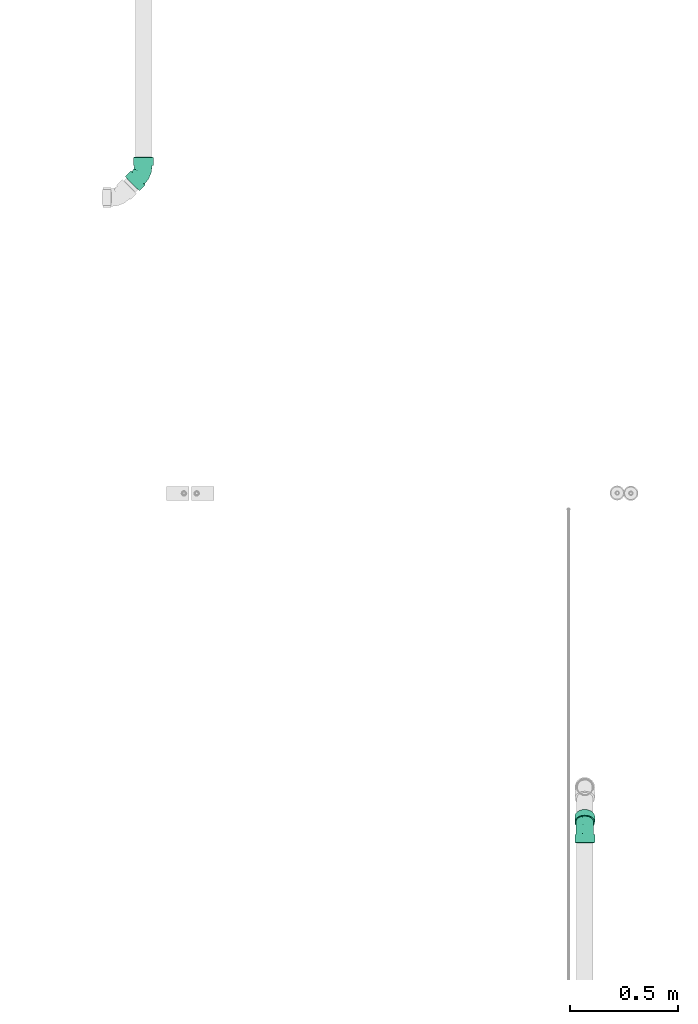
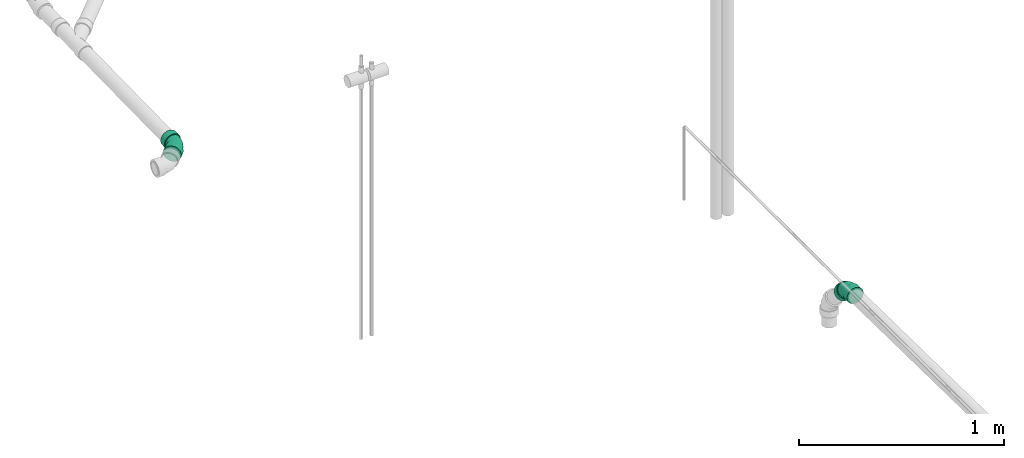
# One storey, part 12 of 18: 2 flow fittings.
"""IFC2X3 building model written with IfcOpenShell, lengths in millimetres."""

from ifc_helpers import new_model, entity, si_unit, converted_unit, derived_unit, direction, frame, origin_with_axes, place, context, subcontext, project, spatial, open_shell, surface_model, source, transform, mapped, type_object, element, save


model = new_model("IFC2X3")

# Units and contexts
model_context = context("Model", 3, precision=0.01, world=frame((0.0, 4.29681676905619e-09, 0.0)), true_north=direction((4.01073788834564e-13, 1.0)))
plan_context = context("Plan", 3, precision=0.01, world=frame((0.0, 4.29681676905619e-09, 0.0)), true_north=direction((4.01073788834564e-13, 1.0)))
body_context = subcontext(model_context, "Body", "Model", "MODEL_VIEW")
ifc_project = project(units=[converted_unit("PLANEANGLEUNIT", "DEGREE", entity("IfcPositiveLengthMeasure", 0.0174532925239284), si_unit("PLANEANGLEUNIT", "RADIAN"), dimensions=[0, 0, 0, 0, 0, 0, 0]), si_unit("AREAUNIT", "SQUARE_METRE"), si_unit("LENGTHUNIT", "METRE", prefix="MILLI"), si_unit("MASSUNIT", "GRAM", prefix="KILO"), si_unit("POWERUNIT", "WATT"), si_unit("PRESSUREUNIT", "PASCAL", prefix="KILO"), si_unit("FORCEUNIT", "NEWTON", prefix="KILO"), si_unit("ELECTRICVOLTAGEUNIT", "VOLT"), si_unit("ELECTRICCURRENTUNIT", "AMPERE"), si_unit("THERMODYNAMICTEMPERATUREUNIT", "DEGREE_CELSIUS"), si_unit("TIMEUNIT", "SECOND"), si_unit("VOLUMEUNIT", "CUBIC_METRE"), derived_unit("LINEARVELOCITYUNIT", [(si_unit("LENGTHUNIT", "METRE"), 1), (si_unit("TIMEUNIT", "SECOND"), -1)]), derived_unit("VOLUMETRICFLOWRATEUNIT", [(si_unit("VOLUMEUNIT", "CUBIC_METRE"), 1), (si_unit("TIMEUNIT", "SECOND"), -1)]), derived_unit("THERMALTRANSMITTANCEUNIT", [(si_unit("POWERUNIT", "WATT"), 1), (si_unit("THERMODYNAMICTEMPERATUREUNIT", "KELVIN"), -1), (si_unit("AREAUNIT", "SQUARE_METRE"), -1)]), derived_unit("SOUNDPRESSUREUNIT", [(si_unit("PRESSUREUNIT", "PASCAL"), 1)])], contexts=[model_context, plan_context])

# Site, building, storey
site_placement = place(None, frame((0.0, -4.29681676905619e-09, 0.0), z_axis=(0.0, 0.0, 1.0), x_axis=(1.0, 0.0, 0.0)))
site = spatial("IfcSite", under=ifc_project, at=site_placement, Name="ENGM", CompositionType="ELEMENT")
building_placement = place(site_placement, frame((0.0, 4.29681676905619e-09, 0.0), z_axis=(0.0, 0.0, 1.0), x_axis=(1.0, 0.0, 0.0)))
building = spatial("IfcBuilding", under=site, at=building_placement, Name="TI", CompositionType="ELEMENT")
storey_placement = place(building_placement, frame((0.0, 0.0, 204000.0), z_axis=(0.0, 0.0, 1.0), x_axis=(1.0, 0.0, 0.0)))
storey = spatial("IfcBuildingStorey", under=building, at=storey_placement, Name="Nivå D", CompositionType="ELEMENT", Elevation=204000.0)

# Flow fittings
pipe_fitting_type = type_object("IfcPipeFittingType", Name="magi_sewer_bend_001", PredefinedType="BEND")
shared_shape_1 = source(origin_with_axes(), body_context, "Body", "SurfaceModel", [
    surface_model("IfcShellBasedSurfaceModel", [(-71.66706, 11.97038, -44.67407), (-71.66706, 32.70369, -32.70369), (-71.66706, 23.125, -40.05367), (-71.66706, 0.0, -46.25), (-71.66706, 44.67407, -11.97038), (-71.66706, 40.05367, -23.125), (-71.66706, 44.67407, 11.97038), (-71.66706, 46.25, 0.0), (-71.66706, 40.05367, 23.125), (-71.66706, 23.125, 40.05367), (-71.66706, 32.70369, 32.70369), (-71.66706, 11.97038, 44.67407), (-34.16706, 0.0, 46.25), (-34.16706, -11.97038, 44.67407), (-34.16706, -23.125, 40.05367), (-34.16706, -32.70369, 32.70369), (-34.16706, -40.05367, 23.125), (-34.16706, -44.67407, 11.97038), (-34.16706, 40.05367, 23.125), (-34.16706, -44.67407, -11.97038), (-34.16706, 23.125, 40.05367), (-34.16706, 32.70369, 32.70369), (-34.16706, 11.97038, 44.67407), (-34.16706, 44.67407, 11.97038), (-34.16706, 44.67407, -11.97038), (-34.16706, 46.25, 0.0), (-34.16706, -32.70369, -32.70369), (-34.16706, -40.05367, -23.125), (-34.16706, -23.125, -40.05367), (-34.16706, -11.97038, -44.67407), (-34.16706, 11.97038, -44.67407), (-34.16706, 32.70369, -32.70369), (-34.16706, 40.05367, -23.125), (-34.16706, 23.125, -40.05367), (-34.16706, 0.0, -46.25), (-34.16706, -46.25, 0.0), (-71.66706, -11.97038, 44.67407), (-71.66706, 0.0, 46.25), (19.0964, 82.2634, -11.97038), (17.98217, 83.37788, 0.0), (19.0964, 82.2634, 11.97038), (47.28487, 1.02931, 32.70369), (40.5125, 7.80325, 40.05367), (32.6259, 15.69166, 44.67407), (32.6259, 15.69166, -44.67407), (15.69917, 32.62229, -44.67407), (24.16254, 24.15697, -46.25), (40.5125, 7.80325, -40.05367), (15.69917, 32.62229, 44.67407), (42.21873, 59.13574, -44.67407), (-4.15643, 52.48246, -23.125), (-7.42316, 55.74995, -11.97038), (50.68209, 50.67043, -46.25), (22.36313, 78.99591, -23.125), (-8.53739, 56.86443, 0.0), (-7.42316, 55.74995, 11.97038), (42.21873, 59.13574, 44.67407), (24.16254, 24.15697, 46.25), (-4.15643, 52.48246, 23.125), (22.36313, 78.99591, 23.125), (50.68209, 50.67043, 46.25), (59.14546, 42.20511, 44.67407), (59.14546, 42.20511, -44.67407), (-34.16706, 10.67629, -39.84444), (-34.16706, 0.0, -41.25), (-34.16706, 35.72355, -20.625), (-34.16706, 20.625, -35.72355), (-34.16706, -10.67629, -39.84444), (-34.16706, 29.16816, -29.16816), (-34.16706, 39.84444, -10.67629), (-34.16706, -29.16816, -29.16816), (-34.16706, -35.72355, -20.625), (-34.16706, -20.625, -35.72355), (-34.16706, -39.84444, -10.67629), (-34.16706, -41.25, 0.0), (-34.16706, -39.84444, 10.67629), (-34.16706, 41.25, 0.0), (-34.16706, 35.72355, 20.625), (-34.16706, 39.84444, 10.67629), (-34.16706, 10.67629, 39.84444), (-34.16706, 20.625, 35.72355), (-34.16706, 29.16816, 29.16816), (-34.16706, -35.72355, 20.625), (-34.16706, -29.16816, 29.16816), (-34.16706, -10.67629, 39.84444), (-34.16706, -20.625, 35.72355), (-34.16706, 0.0, 41.25), (-1.09492, 49.42024, -20.625), (16.61413, 31.70712, -39.84444), (9.58014, 38.74273, -35.72355), (3.53991, 44.78435, -29.16816), (38.74494, 9.57122, -35.72355), (31.71094, 16.60683, -39.84444), (24.16254, 24.15697, -41.25), (52.33357, -4.02054, -10.67629), (52.33357, -4.02054, 10.67629), (53.32733, -5.01454, 0.0), (44.78516, 3.5296, 29.16816), (49.41999, -1.1063, 20.625), (31.71094, 16.60683, 39.84444), (38.74494, 9.57122, 35.72355), (-5.00226, 53.32849, 0.0), (-4.00849, 52.33449, -10.67629), (10.50531, -25.3662, 22.98801), (-9.12258, -23.31381, 31.83032), (-13.31501, -31.5484, 24.15362), (31.72174, -12.89661, 24.15362), (-16.34242, -15.1263, 37.70052), (4.23545, -10.22694, 37.18093), (16.61413, 31.70712, 39.84444), (1.22635, 24.79685, 38.50086), (7.45593, 19.52294, 40.64982), (-12.3073, -3.97177, 40.70356), (-3.92229, 9.47079, 41.105), (-20.66516, 5.7159, 40.99964), (-11.71485, 28.28675, 33.67645), (-18.18583, 34.59425, 26.03138), (9.58014, 38.74273, 35.72355), (3.53991, 44.78435, 29.16816), (15.91576, -27.00124, 16.25786), (-7.39337, -35.68797, 14.32543), (12.80601, -30.92148, 8.96692), (33.09337, -20.6528, 7.04424), (37.00989, -17.53286, 0.0), (-16.52081, 44.19877, 8.66693), (30.4608, -20.01081, 14.32543), (24.16254, 24.15697, 41.25), (11.51172, 5.89279, 40.70356), (22.93484, -10.03736, 31.83032), (-13.77678, -38.56597, 0.0), (-2.14279, -37.03455, 0.0), (12.77847, -30.85497, 0.0), (27.69972, -24.67539, 0.0), (-4.00849, 52.33449, 10.67629), (11.51172, 5.89279, -40.70356), (-11.59821, 37.32248, -26.03138), (44.78516, 3.5296, -29.16816), (22.93484, -10.03736, -31.83032), (49.41999, -1.1063, -20.625), (30.4608, -20.01081, -14.32542), (-0.93093, 23.34179, -38.56285), (-18.39926, 16.66898, -38.50086), (-11.71485, 28.28675, -33.67645), (-7.39337, -35.68797, -14.32542), (-13.31501, -31.5484, -24.15362), (-16.34242, -15.1263, -37.70052), (22.25184, 0.85736, -37.70052), (-19.56634, 42.93748, -8.66693), (33.09337, -20.6528, -7.04424), (10.57287, 18.65301, -40.99964), (7.83513, -30.34781, -16.25786), (12.80601, -30.92148, -8.96692), (31.72174, -12.89661, -24.15362), (4.23545, -10.22694, -37.18093), (-3.92229, 9.47079, -41.105), (10.50531, -25.3662, -22.98801), (6.92293, -16.71615, -32.89587), (-71.66707, -44.67407, -11.97038), (-71.66707, -11.97038, -44.67407), (-71.66707, -23.125, -40.05367), (-71.66707, -32.70369, -32.70369), (-71.66707, -40.05367, -23.125), (-71.66707, -44.67407, 11.97038), (-71.66707, -40.05367, 23.125), (-71.66707, -32.70369, 32.70369), (-71.66707, -46.25, 0.0), (-8.80119, -38.00326, 7.04424), (-1.09492, 49.42026, 20.625), (-16.99004, 41.02424, 16.94694), (-15.8449, 17.16523, 38.56285), (-12.30731, -3.97177, -40.70356), (-19.07597, 8.53486, -40.64982), (-71.66707, -23.125, 40.05367), (67.03205, 34.31671, -40.05367), (27.55975, 73.79809, -32.70369), (34.33213, 67.02416, -40.05367), (67.03205, 34.31671, 40.05367), (73.80443, 27.54278, 32.70369), (79.00106, 22.34495, 23.125), (82.2678, 19.07746, -11.97038), (82.2678, 19.07746, 11.97038), (83.38202, 17.96298, 0.0), (79.00106, 22.34495, -23.125), (73.80443, 27.54278, -32.70369), (55.74824, -7.436, -11.97038), (56.86246, -8.55048, 0.0), (55.74824, -7.436, 11.97038), (52.4815, -4.16851, 23.125), (47.28487, 1.02931, -32.70369), (52.4815, -4.16851, -23.125), (7.81258, 40.5107, 40.05367), (7.81258, 40.5107, -40.05367), (34.33213, 67.02416, 40.05367), (22.25185, 0.85737, 37.70052), (-18.38357, 44.38906, 0.0), (6.92294, -16.71615, 32.89586), (-8.8012, -38.00326, -7.04424), (-9.12259, -23.31381, -31.83032), (27.55975, 73.79809, 32.70369), (1.0402, 47.28464, 32.70369), (1.0402, 47.28464, -32.70369), (-16.99004, 41.02424, -16.94694)], [open_shell([[[0, 1, 2]], [[1, 0, 3]], [[1, 4, 5]], [[4, 1, 3]], [[4, 6, 7]], [[8, 6, 4]], [[8, 9, 10]], [[9, 8, 11]], [[12, 13, 14]], [[12, 14, 15]], [[15, 16, 17]], [[12, 15, 18]], [[15, 19, 18]], [[20, 18, 21]], [[18, 20, 22]], [[23, 24, 25]], [[18, 22, 12]], [[23, 18, 24]], [[15, 17, 19]], [[24, 18, 19]], [[26, 19, 27]], [[28, 29, 19]], [[28, 19, 26]], [[30, 19, 29]], [[24, 31, 32]], [[24, 19, 31]], [[31, 30, 33]], [[19, 30, 31]], [[29, 34, 30]], [[19, 17, 35]], [[24, 4, 25]], [[32, 5, 24]], [[2, 31, 33]], [[32, 31, 1]], [[0, 33, 30]], [[24, 5, 4]], [[4, 7, 25]], [[0, 2, 33]], [[1, 31, 2]], [[1, 5, 32]], [[3, 0, 30]], [[30, 34, 3]], [[36, 14, 13]], [[37, 36, 13]], [[13, 12, 37]], [[21, 9, 20]], [[23, 8, 18]], [[21, 18, 10]], [[6, 23, 25]], [[20, 11, 22]], [[20, 9, 11]], [[11, 37, 22]], [[21, 10, 9]], [[18, 8, 10]], [[6, 8, 23]], [[25, 7, 6]], [[22, 37, 12]], [[38, 39, 40]], [[41, 42, 43]], [[44, 45, 46]], [[45, 47, 48]], [[45, 49, 46]], [[38, 50, 51]], [[49, 52, 46]], [[38, 53, 50]], [[39, 38, 51]], [[51, 54, 39]], [[54, 55, 40]], [[56, 48, 57]], [[40, 58, 59]], [[58, 40, 55]], [[57, 60, 56]], [[54, 40, 39]], [[43, 61, 57]], [[61, 60, 57]], [[62, 44, 46]], [[46, 52, 62]], [[63, 64, 65]], [[66, 63, 65]], [[67, 65, 64]], [[68, 66, 65]], [[69, 65, 67]], [[70, 71, 72]], [[67, 72, 71]], [[71, 73, 67]], [[73, 69, 67]], [[74, 75, 73]], [[76, 69, 73]], [[77, 78, 76]], [[75, 77, 73]], [[79, 80, 81]], [[75, 81, 77]], [[81, 75, 79]], [[82, 83, 75]], [[84, 75, 83]], [[85, 84, 83]], [[84, 79, 75]], [[84, 86, 79]], [[76, 73, 77]], [[87, 88, 89]], [[87, 89, 90]], [[91, 92, 93]], [[94, 95, 96]], [[95, 97, 98]], [[97, 99, 100]], [[101, 95, 102]], [[103, 104, 105]], [[85, 83, 104]], [[98, 97, 106]], [[107, 104, 108]], [[105, 104, 83]], [[109, 110, 111]], [[84, 85, 107]], [[112, 113, 114]], [[86, 84, 112]], [[81, 115, 116]], [[114, 79, 86]], [[117, 118, 115]], [[119, 120, 121]], [[115, 81, 80]], [[83, 82, 105]], [[95, 122, 123]], [[124, 76, 78]], [[125, 119, 121]], [[126, 111, 127]], [[97, 100, 128]], [[127, 99, 126]], [[103, 105, 120]], [[97, 128, 106]], [[113, 111, 110]], [[82, 120, 105]], [[122, 95, 125]], [[103, 106, 128]], [[103, 119, 106]], [[82, 75, 120]], [[108, 127, 112]], [[113, 112, 127]], [[109, 117, 110]], [[107, 112, 84]], [[77, 81, 116]], [[125, 95, 98]], [[125, 98, 106]], [[118, 116, 115]], [[115, 110, 117]], [[104, 107, 85]], [[112, 107, 108]], [[75, 74, 129]], [[121, 130, 131]], [[122, 121, 132]], [[123, 122, 132]], [[123, 96, 95]], [[121, 122, 125]], [[127, 111, 113]], [[126, 109, 111]], [[112, 114, 86]], [[101, 124, 133]], [[106, 119, 125]], [[120, 119, 103]], [[132, 121, 131]], [[93, 92, 134]], [[65, 135, 68]], [[91, 136, 137]], [[138, 94, 139]], [[89, 88, 140]], [[66, 141, 63]], [[90, 142, 135]], [[143, 71, 144]], [[73, 71, 143]], [[70, 144, 71]], [[145, 72, 67]], [[146, 134, 92]], [[101, 102, 147]], [[90, 89, 142]], [[140, 142, 89]], [[142, 140, 141]], [[68, 142, 66]], [[94, 123, 148]], [[149, 88, 93]], [[146, 92, 91]], [[150, 139, 151]], [[136, 152, 137]], [[153, 146, 137]], [[136, 138, 152]], [[154, 149, 134]], [[152, 155, 137]], [[148, 123, 132]], [[149, 140, 88]], [[155, 150, 144]], [[137, 156, 153]], [[138, 139, 152]], [[155, 152, 139]], [[87, 90, 135]], [[68, 135, 142]], [[142, 141, 66]], [[154, 141, 140]], [[137, 146, 91]], [[134, 146, 153]], [[129, 74, 73]], [[150, 151, 143]], [[148, 151, 139]], [[151, 132, 131]], [[94, 96, 123]], [[151, 148, 132]], [[94, 148, 139]], [[134, 149, 93]], [[140, 149, 154]], [[155, 156, 137]], [[76, 147, 69]], [[144, 150, 143]], [[139, 150, 155]], [[130, 151, 131]], [[157, 158, 159]], [[157, 159, 160]], [[157, 160, 161]], [[162, 163, 164]], [[165, 162, 164]], [[55, 54, 51]], [[120, 166, 121]], [[167, 133, 168]], [[133, 124, 168]], [[110, 115, 169]], [[113, 110, 169]], [[130, 121, 166]], [[169, 114, 113]], [[153, 145, 170]], [[154, 171, 141]], [[170, 171, 154]], [[158, 157, 3]], [[3, 157, 165]], [[3, 165, 4]], [[165, 164, 4]], [[4, 164, 8]], [[172, 36, 37]], [[172, 37, 164]], [[11, 164, 37]], [[164, 11, 8]], [[34, 29, 158]], [[161, 27, 19]], [[27, 160, 26]], [[157, 19, 35]], [[158, 28, 159]], [[28, 158, 29]], [[28, 26, 159]], [[26, 160, 159]], [[27, 161, 160]], [[157, 161, 19]], [[35, 165, 157]], [[34, 158, 3]], [[17, 162, 35]], [[16, 163, 17]], [[172, 15, 14]], [[16, 15, 164]], [[17, 163, 162]], [[162, 165, 35]], [[36, 172, 14]], [[164, 15, 172]], [[164, 163, 16]], [[38, 40, 173]], [[56, 173, 40]], [[38, 174, 53]], [[174, 49, 175]], [[49, 174, 38]], [[38, 173, 49]], [[61, 56, 60]], [[61, 176, 177]], [[61, 177, 178]], [[179, 178, 180]], [[61, 178, 179]], [[181, 179, 180]], [[49, 62, 52]], [[173, 62, 49]], [[173, 182, 183]], [[182, 173, 179]], [[61, 179, 173]], [[173, 56, 61]], [[184, 185, 186]], [[187, 184, 186]], [[184, 187, 41]], [[41, 48, 47]], [[184, 188, 189]], [[188, 184, 47]], [[47, 184, 41]], [[44, 47, 45]], [[41, 43, 48]], [[55, 48, 190]], [[51, 48, 55]], [[48, 43, 57]], [[191, 175, 45]], [[45, 175, 49]], [[174, 175, 191]], [[192, 190, 48]], [[56, 192, 48]], [[42, 176, 43]], [[178, 41, 187]], [[42, 41, 177]], [[180, 187, 186]], [[43, 176, 61]], [[180, 178, 187]], [[177, 41, 178]], [[177, 176, 42]], [[181, 180, 186]], [[186, 185, 181]], [[188, 182, 189]], [[44, 173, 47]], [[188, 47, 183]], [[189, 179, 184]], [[189, 182, 179]], [[179, 181, 184]], [[188, 183, 182]], [[47, 173, 183]], [[62, 173, 44]], [[184, 181, 185]], [[87, 93, 88]], [[93, 87, 138]], [[95, 94, 87]], [[91, 138, 136]], [[138, 91, 93]], [[87, 94, 138]], [[95, 87, 102]], [[101, 133, 167]], [[101, 167, 118]], [[99, 118, 117]], [[118, 99, 101]], [[126, 117, 109]], [[95, 101, 97]], [[97, 101, 99]], [[126, 99, 117]], [[129, 130, 166]], [[100, 99, 193]], [[80, 169, 115]], [[75, 129, 166]], [[77, 116, 168]], [[78, 77, 168]], [[80, 79, 169]], [[128, 100, 193]], [[114, 169, 79]], [[78, 168, 124]], [[194, 124, 101]], [[104, 195, 108]], [[167, 168, 116]], [[108, 193, 127]], [[167, 116, 118]], [[195, 103, 128]], [[127, 193, 99]], [[128, 193, 108]], [[75, 166, 120]], [[103, 195, 104]], [[128, 108, 195]], [[124, 194, 76]], [[67, 64, 170]], [[141, 171, 63]], [[76, 194, 147]], [[153, 170, 134]], [[171, 170, 64]], [[154, 134, 170]], [[170, 145, 67]], [[64, 63, 171]], [[147, 194, 101]], [[130, 196, 151]], [[156, 155, 197]], [[196, 143, 151]], [[197, 145, 153]], [[197, 153, 156]], [[40, 59, 198]], [[40, 198, 56]], [[56, 198, 192]], [[199, 58, 55]], [[199, 55, 190]], [[45, 200, 191]], [[45, 48, 200]], [[200, 51, 50]], [[48, 51, 200]], [[53, 200, 50]], [[191, 200, 174]], [[174, 200, 53]], [[190, 198, 199]], [[58, 199, 59]], [[199, 198, 59]], [[190, 192, 198]], [[201, 135, 65]], [[69, 147, 201]], [[73, 196, 129]], [[196, 73, 143]], [[144, 70, 197]], [[70, 72, 197]], [[102, 87, 201]], [[155, 144, 197]], [[201, 65, 69]], [[87, 135, 201]], [[145, 197, 72]], [[102, 201, 147]], [[129, 196, 130]]])]),
])
flow_fitting_1_placement = place(storey_placement, frame((590977.2116, 576479.77111, 5967.45207999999), z_axis=(-0.00690193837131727, -0.0166639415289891, 0.999837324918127), x_axis=(0.707008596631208, 0.707008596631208, 0.0166639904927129)))
element("IfcFlowFitting", 1, at=flow_fitting_1_placement, inside=storey, type_object=pipe_fitting_type, Name="magi_sewer_bend_001", context=body_context, shape_type="MappedRepresentation", body=[
    mapped(shared_shape_1, transform((0.0, 0.0, 0.0), scale=1.0)),
])
shared_shape_2 = source(origin_with_axes(), body_context, "Body", "SurfaceModel", [
    surface_model("IfcShellBasedSurfaceModel", [(-70.86999, -44.67407, -11.97038), (-70.86999, -11.97038, -44.67407), (-70.86999, -23.125, -40.05367), (-70.86999, -32.70369, -32.70369), (-70.86999, 0.0, -46.25), (-70.86999, -40.05367, -23.125), (-70.86999, -46.25, 0.0), (-70.86999, 11.97038, -44.67407), (-70.86999, 32.70369, -32.70369), (-70.86999, 23.125, -40.05367), (-70.86999, 44.67407, -11.97038), (-70.86999, 40.05367, -23.125), (-70.86999, -32.70369, 32.70369), (-70.86999, -44.67407, 11.97038), (-70.86999, -40.05367, 23.125), (-70.86999, 40.05367, 23.125), (-70.86999, -23.125, 40.05367), (-70.86999, -11.97038, 44.67407), (-70.86999, 0.0, 46.25), (-70.86999, 11.97038, 44.67407), (-70.86999, 44.67407, 11.97038), (-70.86999, 46.25, 0.0), (-70.86999, 23.125, 40.05367), (-70.86999, 32.70369, 32.70369), (-33.36999, 0.0, 46.25), (-33.36999, -11.97038, 44.67407), (-33.36999, -23.125, 40.05367), (-33.36999, -32.70369, 32.70369), (-33.36999, -40.05367, 23.125), (-33.36999, -44.67407, 11.97038), (-33.36999, 40.05367, 23.125), (-33.36999, -44.67407, -11.97038), (-33.36999, 23.125, 40.05367), (-33.36999, 32.70369, 32.70369), (-33.36999, 11.97038, 44.67407), (-33.36999, 44.67407, 11.97038), (-33.36999, 44.67407, -11.97038), (-33.36999, 46.25, 0.0), (-33.36999, -32.70369, -32.70369), (-33.36999, -40.05367, -23.125), (-33.36999, -23.125, -40.05367), (-33.36999, -11.97038, -44.67407), (-33.36999, 11.97038, -44.67407), (-33.36999, 32.70369, -32.70369), (-33.36999, 40.05367, -23.125), (-33.36999, 23.125, -40.05367), (-33.36999, 0.0, -46.25), (-33.36999, -46.25, 0.0), (23.09447, 78.06086, 23.125), (18.78662, 82.51473, 0.0), (19.88225, 81.38196, 11.97038), (34.86371, 65.89266, 40.05367), (28.20436, 72.77775, 32.70369), (42.61868, 57.87481, 44.67407), (42.61868, 57.87481, -44.67407), (78.78711, 20.48033, 23.125), (19.88225, 81.38196, -11.97038), (28.20436, 72.77775, -32.70369), (23.09447, 78.06086, -23.125), (34.86371, 65.89266, -40.05367), (50.94079, 49.2706, 46.25), (73.67721, 25.76344, 32.70369), (59.26289, 40.66638, 44.67407), (67.01787, 32.64853, 40.05367), (50.94079, 49.2706, -46.25), (81.99932, 17.15923, 11.97038), (83.09495, 16.02646, 0.0), (81.99932, 17.15923, -11.97038), (67.01787, 32.64853, -40.05367), (59.26289, 40.66638, -44.67407), (73.67721, 25.76344, -32.70369), (78.78711, 20.48033, -23.125), (56.14025, -10.04448, 0.0), (55.04462, -8.91171, 11.97038), (51.83241, -5.59061, 23.125), (15.66397, 31.80387, 44.67407), (40.06317, 6.57759, -40.05367), (46.72251, -0.3075, 32.70369), (40.06317, 6.57759, 40.05367), (32.30819, 14.59544, 44.67407), (55.04462, -8.91171, -11.97038), (46.72251, -0.3075, -32.70369), (51.83241, -5.59061, -23.125), (32.30819, 14.59544, -44.67407), (15.66397, 31.80387, -44.67407), (23.98608, 23.19965, -46.25), (-3.86024, 51.98992, 23.125), (7.909, 39.82172, 40.05367), (-7.07245, 55.31102, 11.97038), (1.24966, 46.70681, 32.70369), (-7.07245, 55.31102, -11.97038), (1.24966, 46.70681, -32.70369), (7.909, 39.82172, -40.05367), (-3.86024, 51.98992, -23.125), (-8.16808, 56.44379, 0.0), (23.98608, 23.19965, 46.25), (-33.36999, 10.67629, -39.84444), (-33.36999, 0.0, -41.25), (-33.36999, 35.72355, -20.625), (-33.36999, 20.625, -35.72355), (-33.36999, -10.67629, -39.84444), (-33.36999, 29.16816, -29.16816), (-33.36999, 39.84444, -10.67629), (-33.36999, -29.16816, -29.16816), (-33.36999, -35.72355, -20.625), (-33.36999, -20.625, -35.72355), (-33.36999, -39.84444, -10.67629), (-33.36999, -41.25, 0.0), (-33.36999, -39.84444, 10.67629), (-33.36999, 41.25, 0.0), (-33.36999, 35.72355, 20.625), (-33.36999, 39.84444, 10.67629), (-33.36999, 10.67629, 39.84444), (-33.36999, 20.625, 35.72355), (-33.36999, 29.16816, 29.16816), (-33.36999, -35.72355, 20.625), (-33.36999, -29.16816, 29.16816), (-33.36999, -10.67629, 39.84444), (-33.36999, -20.625, 35.72355), (-33.36999, 0.0, 41.25), (16.56366, 30.87368, -39.84444), (38.3251, 8.37457, -35.72355), (23.98608, 23.19965, -41.25), (-0.84982, 48.87746, -20.625), (9.64707, 38.02474, -35.72355), (51.68694, -5.44021, -10.67629), (3.70765, 44.16549, -29.16816), (-0.84982, 48.87746, 20.625), (48.82199, -2.47815, -20.625), (44.26452, 2.23382, -29.16816), (31.4085, 15.52563, -39.84444), (51.68694, -5.44021, 10.67629), (52.66412, -6.45052, 0.0), (-3.71477, 51.83952, -10.67629), (-4.69195, 52.84983, 0.0), (-3.71477, 51.83952, 10.67629), (3.70765, 44.16549, 29.16816), (9.64707, 38.02474, 35.72355), (16.56366, 30.87368, 39.84444), (23.98608, 23.19965, 41.25), (44.26452, 2.23382, 29.16816), (48.82199, -2.47815, 20.625), (31.4085, 15.52563, 39.84444), (38.3251, 8.37457, 35.72355), (-12.58853, -31.54435, 24.17668), (-6.9774, -35.75422, 14.37654), (10.38544, -25.67572, 23.07848), (-12.96996, -38.62191, 0.0), (-2.00564, -37.2094, 0.0), (-8.32006, -38.05933, 7.10054), (-8.64206, -23.35058, 31.86051), (30.97896, -13.92196, 24.17668), (-16.00248, -15.16457, 37.71976), (4.23177, -10.46213, 37.22196), (7.28982, 19.10286, 40.61951), (-11.73558, -3.98727, 40.7101), (-3.7608, 9.29775, 41.09815), (-20.23923, 5.69235, 40.99517), (-11.38761, 28.15337, 33.63781), (-17.42199, 34.60072, 26.01091), (22.04525, 0.22516, 37.71976), (-15.17463, 17.16222, 38.55098), (15.41873, -27.52267, 16.38784), (12.6486, -31.27089, 9.13669), (-16.54487, 40.90359, 16.89882), (32.4402, -21.57243, 7.10054), (36.17362, -18.74408, 0.0), (-16.29108, 43.9485, 8.64114), (29.87253, -20.84898, 14.37654), (11.20749, 5.29285, 40.7101), (22.44575, -10.77604, 31.86051), (1.50536, 24.54489, 38.48018), (-17.9024, 44.25976, 0.0), (6.80698, -16.82877, 33.0773), (12.65245, -31.28042, 0.0), (27.31054, -25.35145, 0.0), (-11.73558, -3.98727, -40.7101), (-8.32006, -38.05933, -7.10054), (12.6486, -31.27089, -9.13669), (11.20749, 5.29285, -40.7101), (-18.52065, 8.66292, -40.61951), (-11.5325, 36.98292, -26.01091), (22.44575, -10.77604, -31.86051), (-16.54488, 40.90359, -16.89882), (29.87253, -20.84898, -14.37654), (-18.84421, 42.9158, -8.64114), (-1.0242, 22.88586, -38.55098), (-18.14626, 16.5961, -38.48018), (-6.9774, -35.75422, -14.37654), (-11.38761, 28.15337, -33.63781), (30.97896, -13.92196, -24.17668), (10.38544, -25.67572, -23.07848), (-12.58853, -31.54435, -24.17668), (-8.64206, -23.35058, -31.86051), (6.80698, -16.82877, -33.0773), (-16.00248, -15.16457, -37.71976), (22.04525, 0.22516, -37.71976), (4.23177, -10.46213, -37.22196), (32.4402, -21.57243, -7.10054), (10.59033, 18.16243, -40.99517), (8.05159, -30.50256, -16.38784), (-3.7608, 9.29775, -41.09815)], [open_shell([[[0, 1, 2]], [[0, 2, 3]], [[1, 0, 4]], [[0, 3, 5]], [[4, 0, 6]], [[7, 8, 9]], [[8, 7, 4]], [[8, 10, 11]], [[10, 8, 4]], [[4, 6, 10]], [[6, 12, 10]], [[13, 14, 12]], [[10, 12, 15]], [[16, 17, 18]], [[16, 18, 12]], [[19, 12, 18]], [[10, 20, 21]], [[15, 20, 10]], [[15, 22, 23]], [[22, 15, 19]], [[12, 19, 15]], [[6, 13, 12]], [[24, 25, 26]], [[24, 26, 27]], [[27, 28, 29]], [[24, 27, 30]], [[27, 31, 30]], [[32, 30, 33]], [[30, 32, 34]], [[35, 36, 37]], [[30, 34, 24]], [[35, 30, 36]], [[27, 29, 31]], [[36, 30, 31]], [[38, 31, 39]], [[40, 41, 31]], [[40, 31, 38]], [[42, 31, 41]], [[36, 43, 44]], [[36, 31, 43]], [[43, 42, 45]], [[31, 42, 43]], [[41, 46, 42]], [[31, 29, 47]], [[36, 10, 37]], [[44, 11, 36]], [[9, 43, 45]], [[44, 43, 8]], [[7, 45, 42]], [[36, 11, 10]], [[10, 21, 37]], [[7, 9, 45]], [[8, 43, 9]], [[8, 11, 44]], [[4, 7, 42]], [[42, 46, 4]], [[46, 41, 1]], [[5, 39, 31]], [[39, 3, 38]], [[0, 31, 47]], [[1, 40, 2]], [[40, 1, 41]], [[40, 38, 2]], [[38, 3, 2]], [[39, 5, 3]], [[0, 5, 31]], [[47, 6, 0]], [[46, 1, 4]], [[29, 13, 47]], [[28, 14, 29]], [[16, 27, 26]], [[28, 27, 12]], [[17, 26, 25]], [[29, 14, 13]], [[13, 6, 47]], [[17, 16, 26]], [[12, 27, 16]], [[12, 14, 28]], [[18, 17, 25]], [[25, 24, 18]], [[33, 22, 32]], [[35, 15, 30]], [[33, 30, 23]], [[20, 35, 37]], [[32, 19, 34]], [[32, 22, 19]], [[19, 18, 34]], [[33, 23, 22]], [[30, 15, 23]], [[20, 15, 35]], [[37, 21, 20]], [[34, 18, 24]], [[48, 49, 50]], [[51, 48, 52]], [[48, 53, 54]], [[53, 48, 51]], [[53, 55, 54]], [[56, 57, 58]], [[57, 56, 49]], [[57, 54, 59]], [[54, 57, 49]], [[49, 48, 54]], [[53, 60, 61]], [[62, 63, 61]], [[61, 55, 53]], [[64, 55, 65]], [[55, 64, 54]], [[66, 67, 65]], [[64, 68, 69]], [[68, 64, 67]], [[70, 67, 71]], [[67, 70, 68]], [[64, 65, 67]], [[60, 62, 61]], [[72, 73, 74]], [[75, 76, 72]], [[77, 78, 79]], [[74, 75, 72]], [[74, 77, 75]], [[80, 81, 82]], [[81, 80, 76]], [[83, 84, 85]], [[76, 80, 72]], [[83, 76, 84]], [[77, 79, 75]], [[84, 76, 75]], [[86, 75, 87]], [[86, 88, 75]], [[86, 87, 89]], [[90, 75, 88]], [[84, 91, 92]], [[91, 84, 90]], [[91, 90, 93]], [[84, 75, 90]], [[88, 94, 90]], [[75, 79, 95]], [[84, 54, 85]], [[92, 59, 84]], [[58, 91, 93]], [[92, 91, 57]], [[56, 93, 90]], [[84, 59, 54]], [[54, 64, 85]], [[56, 58, 93]], [[57, 91, 58]], [[57, 59, 92]], [[49, 56, 90]], [[90, 94, 49]], [[94, 88, 50]], [[51, 87, 75]], [[87, 52, 89]], [[53, 75, 95]], [[50, 86, 48]], [[86, 50, 88]], [[86, 89, 48]], [[89, 52, 48]], [[87, 51, 52]], [[53, 51, 75]], [[95, 60, 53]], [[94, 50, 49]], [[79, 62, 95]], [[78, 63, 79]], [[55, 77, 74]], [[78, 77, 61]], [[65, 74, 73]], [[79, 63, 62]], [[62, 60, 95]], [[65, 55, 74]], [[61, 77, 55]], [[61, 63, 78]], [[66, 65, 73]], [[73, 72, 66]], [[81, 71, 82]], [[83, 68, 76]], [[81, 76, 70]], [[69, 83, 85]], [[82, 67, 80]], [[82, 71, 67]], [[67, 66, 80]], [[81, 70, 71]], [[76, 68, 70]], [[69, 68, 83]], [[85, 64, 69]], [[80, 66, 72]], [[96, 97, 98]], [[99, 96, 98]], [[100, 98, 97]], [[101, 99, 98]], [[102, 98, 100]], [[103, 104, 105]], [[100, 105, 104]], [[104, 106, 100]], [[106, 102, 100]], [[107, 108, 106]], [[109, 102, 106]], [[110, 111, 109]], [[108, 110, 106]], [[112, 113, 114]], [[108, 114, 110]], [[114, 108, 112]], [[115, 116, 108]], [[117, 108, 116]], [[118, 117, 116]], [[117, 112, 108]], [[117, 119, 112]], [[109, 106, 110]], [[120, 121, 122]], [[123, 120, 124]], [[125, 120, 123]], [[123, 124, 126]], [[123, 127, 125]], [[121, 128, 129]], [[121, 130, 122]], [[121, 125, 128]], [[120, 125, 121]], [[125, 131, 132]], [[123, 133, 134]], [[134, 135, 127]], [[125, 127, 131]], [[136, 137, 138]], [[127, 136, 131]], [[138, 139, 136]], [[131, 140, 141]], [[140, 131, 142]], [[140, 142, 143]], [[131, 136, 142]], [[136, 139, 142]], [[127, 123, 134]], [[144, 145, 146]], [[147, 148, 149]], [[118, 116, 150]], [[141, 140, 151]], [[152, 150, 153]], [[144, 116, 115]], [[138, 154, 139]], [[117, 118, 152]], [[155, 156, 157]], [[119, 117, 155]], [[114, 158, 159]], [[143, 142, 160]], [[157, 112, 119]], [[113, 161, 158]], [[108, 147, 149]], [[137, 136, 158]], [[162, 145, 163]], [[158, 114, 113]], [[144, 150, 116]], [[110, 159, 164]], [[111, 110, 164]], [[131, 165, 166]], [[167, 109, 111]], [[168, 162, 163]], [[145, 149, 163]], [[113, 112, 161]], [[139, 154, 169]], [[140, 143, 170]], [[127, 135, 164]], [[169, 142, 139]], [[150, 144, 146]], [[168, 141, 151]], [[171, 154, 138]], [[170, 143, 160]], [[145, 144, 115]], [[165, 131, 168]], [[170, 151, 140]], [[157, 161, 112]], [[151, 170, 146]], [[111, 164, 167]], [[115, 108, 145]], [[172, 167, 134]], [[150, 173, 153]], [[135, 167, 164]], [[153, 169, 155]], [[127, 164, 159]], [[153, 160, 169]], [[127, 159, 136]], [[156, 155, 169]], [[138, 137, 171]], [[171, 158, 161]], [[152, 155, 117]], [[110, 114, 159]], [[168, 131, 141]], [[151, 146, 162]], [[173, 146, 170]], [[136, 159, 158]], [[158, 171, 137]], [[156, 171, 161]], [[150, 152, 118]], [[155, 152, 153]], [[169, 160, 142]], [[170, 160, 153]], [[108, 107, 147]], [[163, 148, 174]], [[108, 149, 145]], [[148, 163, 149]], [[165, 163, 175]], [[166, 165, 175]], [[166, 132, 131]], [[163, 165, 168]], [[171, 156, 154]], [[154, 156, 169]], [[155, 157, 119]], [[161, 157, 156]], [[146, 173, 150]], [[170, 153, 173]], [[134, 167, 135]], [[167, 172, 109]], [[151, 162, 168]], [[145, 162, 146]], [[175, 163, 174]], [[100, 97, 176]], [[148, 177, 178]], [[122, 130, 179]], [[180, 97, 96]], [[98, 181, 101]], [[121, 129, 182]], [[183, 181, 98]], [[128, 125, 184]], [[102, 185, 183]], [[124, 120, 186]], [[106, 177, 147]], [[99, 187, 96]], [[177, 106, 188]], [[126, 189, 181]], [[182, 190, 191]], [[192, 188, 104]], [[103, 105, 193]], [[194, 191, 193]], [[106, 104, 188]], [[103, 192, 104]], [[195, 105, 100]], [[196, 179, 130]], [[133, 123, 183]], [[197, 195, 176]], [[109, 172, 185]], [[184, 190, 128]], [[134, 133, 185]], [[197, 176, 179]], [[126, 124, 189]], [[183, 98, 102]], [[123, 181, 183]], [[195, 193, 105]], [[186, 189, 124]], [[180, 176, 97]], [[189, 186, 187]], [[101, 189, 99]], [[125, 166, 198]], [[199, 120, 122]], [[196, 130, 121]], [[200, 184, 178]], [[128, 190, 129]], [[197, 196, 182]], [[190, 182, 129]], [[201, 199, 179]], [[191, 190, 184]], [[201, 179, 176]], [[198, 166, 175]], [[199, 186, 120]], [[187, 180, 96]], [[177, 188, 178]], [[192, 193, 191]], [[182, 194, 197]], [[193, 192, 103]], [[133, 183, 185]], [[192, 191, 200]], [[123, 126, 181]], [[101, 181, 189]], [[189, 187, 99]], [[201, 187, 186]], [[176, 195, 100]], [[193, 195, 197]], [[182, 196, 121]], [[179, 196, 197]], [[147, 177, 148]], [[147, 107, 106]], [[200, 178, 188]], [[198, 178, 184]], [[178, 175, 174]], [[125, 132, 166]], [[178, 198, 175]], [[125, 198, 184]], [[187, 201, 180]], [[180, 201, 176]], [[179, 199, 122]], [[186, 199, 201]], [[191, 194, 182]], [[193, 197, 194]], [[109, 185, 102]], [[185, 172, 134]], [[192, 200, 188]], [[184, 200, 191]], [[148, 178, 174]]])]),
])
flow_fitting_2_placement = place(storey_placement, frame((593020.37788, 573450.35912, 6235.05838), z_axis=(1.0, 0.0, 0.0), x_axis=(0.0, -0.707106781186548, 0.707106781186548)))
element("IfcFlowFitting", 2, at=flow_fitting_2_placement, inside=storey, type_object=pipe_fitting_type, Name="magi_sewer_bend_001", context=body_context, shape_type="MappedRepresentation", body=[
    mapped(shared_shape_2, transform((0.0, 0.0, 0.0), scale=1.0)),
])

save(model, "model.ifc")
